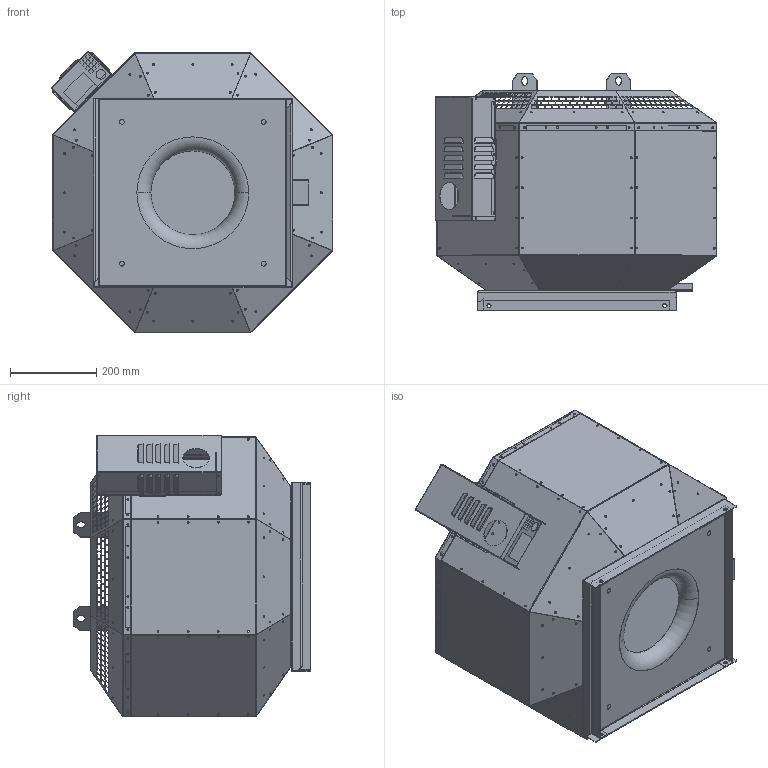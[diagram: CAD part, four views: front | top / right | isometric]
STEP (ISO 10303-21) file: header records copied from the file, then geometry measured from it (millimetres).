
FILE_DESCRIPTION (( 'STEP AP203' ), '1' );
FILE_NAME ('145176-01_DVNI315EC30_step.step', '2018-08-10T12:05:29', ( '' ), ( '' ), 'SwSTEP 2.0', 'SolidWorks 2017', '' );
FILE_SCHEMA (( 'CONFIG_CONTROL_DESIGN' ));
Products named in the file (2): 145176-01_DVNI315EC30_step
Bounding box: 654.75 x 550.51 x 654.75 mm (x, y, z)
Surface area: 3346124.6 mm2 (no closed solid volume)
Topology: 0 solids, 33 shells, 1671 faces, 8970 edges, 6685 vertices
Faces by surface type: plane 1242, cylinder 351, bspline 76, torus 2
Entity records: 107942 total; most frequent: CARTESIAN_POINT 37238, DIRECTION 13096, ORIENTED_EDGE 12654, EDGE_CURVE 8970, VECTOR 7090, LINE 7090, VERTEX_POINT 6685, EDGE_LOOP 3360
